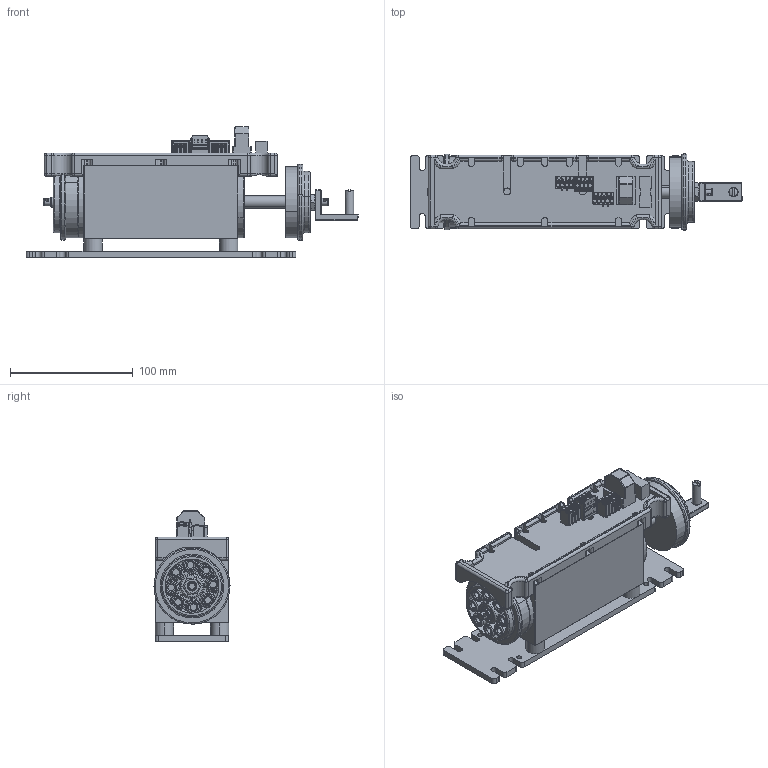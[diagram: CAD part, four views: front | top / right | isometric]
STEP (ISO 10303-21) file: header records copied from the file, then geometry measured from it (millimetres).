
FILE_DESCRIPTION (( 'STEP AP203' ), '1' );
FILE_NAME ('4995-212 S1 Schleifenzugmagnet.STEP', '2023-01-31T08:57:00', ( '' ), ( '' ), 'SwSTEP 2.0', 'SolidWorks 2021', '' );
FILE_SCHEMA (( 'CONFIG_CONTROL_DESIGN' ));
Length unit declared in the file: millimetre
Products named in the file (21): 4040-239 Anhängehaken-Winkelstück Lang; Wago pico Max serie20911175 (ohne Features); Wago pico Max Serie 2091-1124; 4995-212 S1 Schleifenzugmagnet; 4045-603; 4045-604; 4045-605 Kunststoff Platinenhalter S1; 4045-608; DIN 985 - M8; 4045-613 Megi-Puffer-Fuß S.1 15x10xM5; Wago pico Max Serie 2091-1404_200-000; Platinen Bauteil; 4040-238 Mitnehmerschraube f. Haken; 4045-544 Fake Achse S.1; DIN EN ISO 4035 - M8; Wago pico Max serie20911174(ohne Features); 4045-541 Körper R50; 4045-601 Fake Einsatz S.1; Platinen Bauteil WE; 4045-402 Anhängehaken-Set Lang
Assembly tree (27 placements, depth 3):
  4995-212 S1 Schleifenzugmagnet
    4045-603  x2
    4045-604  x2
    DIN 985 - M8  x2
    4045-608
    4045-613 Megi-Puffer-Fuß S.1 15x10xM5  x4
    4045-541 Körper R50
    4045-544 Fake Achse S.1
    4045-601 Fake Einsatz S.1  x2
    4045-605 Kunststoff Platinenhalter S1
      4045-605 Kunststoff Platinenhalter S1
      Wago pico Max serie20911175 (ohne Features)
      Wago pico Max Serie 2091-1404_200-000
      Wago pico Max Serie 2091-1124
      Wago pico Max serie20911174(ohne Features)
      Platinen Bauteil WE
      Platinen Bauteil
    4045-402 Anhängehaken-Set Lang
      4040-239 Anhängehaken-Winkelstück Lang
      4040-238 Mitnehmerschraube f. Haken
      DIN EN ISO 4035 - M8
Bounding box: 270.69 x 61.99 x 106.5 mm (x, y, z)
Volume: 752167.2 mm3; surface area: 174257.4 mm2
Topology: 25 solids, 27 shells, 2435 faces, 6159 edges, 3832 vertices
Faces by surface type: plane 1245, cylinder 764, torus 190, cone 179, sphere 39, bspline 18
Entity records: 71339 total; most frequent: CARTESIAN_POINT 16054, ORIENTED_EDGE 11138, DIRECTION 10990, EDGE_CURVE 5569, AXIS2_PLACEMENT_3D 3822, VERTEX_POINT 3499, LINE 3346, VECTOR 3346
